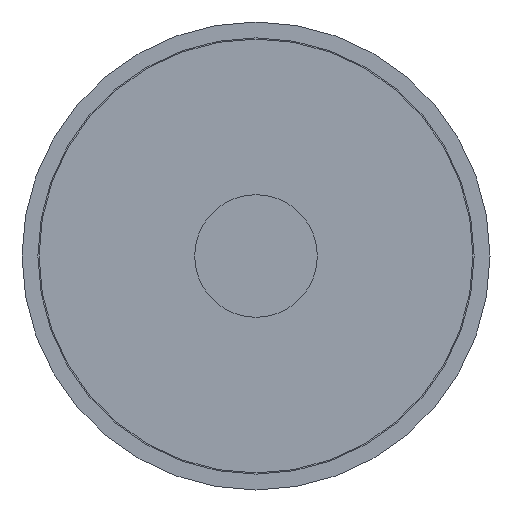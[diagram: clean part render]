
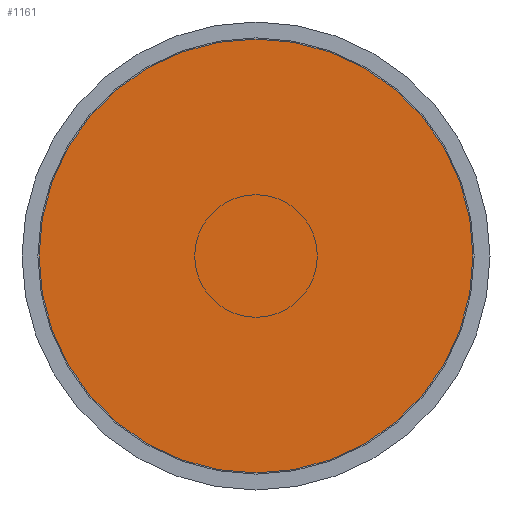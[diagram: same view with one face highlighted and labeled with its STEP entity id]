
A CAD part, front view. The second image highlights one B-rep face of the part: STEP entity #1161.
In plain terms, the highlighted planar face has unit normal (0, -1, 0).
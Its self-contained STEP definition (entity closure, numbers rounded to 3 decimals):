
#1114=CARTESIAN_POINT('',(-11.684,96.819,-48.));
#1115=VERTEX_POINT('',#1114);
#1122=CARTESIAN_POINT('',(-11.684,96.819,48.));
#1123=VERTEX_POINT('',#1122);
#1124=CARTESIAN_POINT('',(-11.684,96.819,0.0));
#1125=DIRECTION('',(0.0,-1.0,0.0));
#1126=DIRECTION('',(0.0,0.0,-1.0));
#1127=AXIS2_PLACEMENT_3D('',#1124,#1125,#1126);
#1128=CIRCLE('',#1127,48.);
#1129=EDGE_CURVE('',#1123,#1115,#1128,.T.);
#1131=CARTESIAN_POINT('',(-11.684,96.819,0.0));
#1132=DIRECTION('',(0.0,-1.0,0.0));
#1133=DIRECTION('',(0.0,0.0,-1.0));
#1134=AXIS2_PLACEMENT_3D('',#1131,#1132,#1133);
#1135=CIRCLE('',#1134,48.);
#1136=EDGE_CURVE('',#1115,#1123,#1135,.T.);
#1152=CARTESIAN_POINT('',(-69.284,96.819,57.6));
#1153=DIRECTION('',(0.0,-1.0,0.0));
#1154=DIRECTION('',(0.0,0.0,-1.0));
#1155=AXIS2_PLACEMENT_3D('',#1152,#1153,#1154);
#1156=PLANE('',#1155);
#1157=ORIENTED_EDGE('',*,*,#1136,.T.);
#1158=ORIENTED_EDGE('',*,*,#1129,.T.);
#1159=EDGE_LOOP('',(#1157,#1158));
#1160=FACE_OUTER_BOUND('',#1159,.T.);
#1161=ADVANCED_FACE('',(#1160),#1156,.T.);
